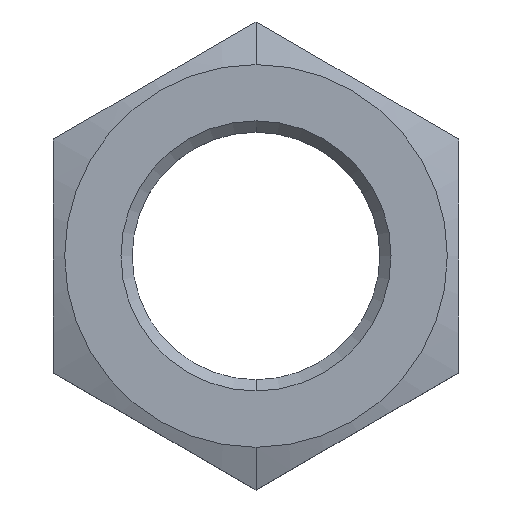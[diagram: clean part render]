
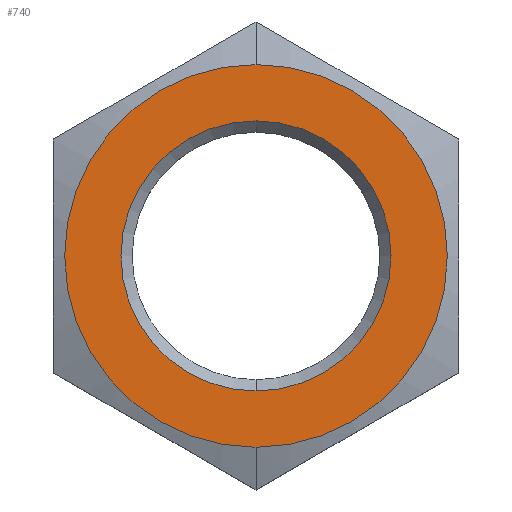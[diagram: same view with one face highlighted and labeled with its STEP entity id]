
A CAD part, top view. The second image highlights one B-rep face of the part: STEP entity #740.
In plain terms, the highlighted planar face has unit normal (0, 0, 1).
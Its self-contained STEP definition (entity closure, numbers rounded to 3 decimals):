
#139=CARTESIAN_POINT('',(0.,0.,8.));
#140=DIRECTION('',(0.,0.,1.));
#141=DIRECTION('',(0.,1.,0.));
#142=AXIS2_PLACEMENT_3D('',#139,#140,#141);
#147=CARTESIAN_POINT('',(0.,0.,8.));
#148=DIRECTION('',(0.,0.,1.));
#149=DIRECTION('',(0.,-1.,0.));
#150=AXIS2_PLACEMENT_3D('',#147,#148,#149);
#155=CARTESIAN_POINT('',(0.,0.,8.));
#156=DIRECTION('',(0.,0.,1.));
#157=DIRECTION('',(0.,1.,0.));
#158=AXIS2_PLACEMENT_3D('',#155,#156,#157);
#163=CARTESIAN_POINT('',(0.,0.,8.));
#164=DIRECTION('',(0.,0.,1.));
#165=DIRECTION('',(0.,-1.,0.));
#166=AXIS2_PLACEMENT_3D('',#163,#164,#165);
#600=CARTESIAN_POINT('',(0.,17.,8.));
#601=CARTESIAN_POINT('',(0.,-17.,8.));
#602=VERTEX_POINT('',#600);
#603=VERTEX_POINT('',#601);
#604=CARTESIAN_POINT('',(0.,12.,8.));
#605=CARTESIAN_POINT('',(0.,-12.,8.));
#606=VERTEX_POINT('',#604);
#607=VERTEX_POINT('',#605);
#724=CARTESIAN_POINT('',(0.,0.,8.));
#725=DIRECTION('',(0.,0.,1.));
#726=DIRECTION('',(1.,0.,0.));
#727=AXIS2_PLACEMENT_3D('',#724,#725,#726);
#728=PLANE('',#727);
#730=ORIENTED_EDGE('',*,*,#729,.F.);
#731=ORIENTED_EDGE('',*,*,#710,.F.);
#732=EDGE_LOOP('',(#730,#731));
#733=FACE_OUTER_BOUND('',#732,.F.);
#735=ORIENTED_EDGE('',*,*,#734,.T.);
#737=ORIENTED_EDGE('',*,*,#736,.T.);
#738=EDGE_LOOP('',(#735,#737));
#739=FACE_BOUND('',#738,.F.);
#740=ADVANCED_FACE('',(#733,#739),#728,.T.);
#143=CIRCLE('',#142,17.);
#151=CIRCLE('',#150,17.);
#159=CIRCLE('',#158,12.);
#167=CIRCLE('',#166,12.);
#710=EDGE_CURVE('',#603,#602,#151,.T.);
#729=EDGE_CURVE('',#602,#603,#143,.T.);
#734=EDGE_CURVE('',#606,#607,#159,.T.);
#736=EDGE_CURVE('',#607,#606,#167,.T.);
